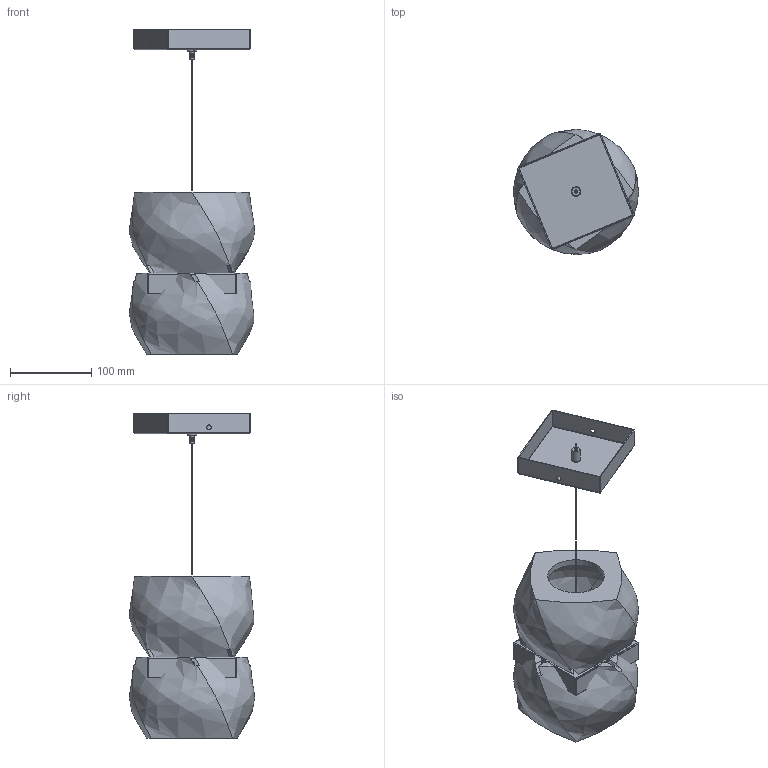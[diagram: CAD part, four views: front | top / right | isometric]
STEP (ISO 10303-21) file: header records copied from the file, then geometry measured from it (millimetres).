
FILE_DESCRIPTION( ( 'STEP AP203' ), '1' );
FILE_NAME( '//srvbf/BF Disegni/ARRIGHI FRANCESCA/AUREA/AUREA-T-SB sospensione TONDA Bianco.stp', '2020-10-16T06:31:27', ( ' ' ), ( ' ' ), 'XStep 1.0', ' ', ' ' );
FILE_SCHEMA( ( 'CONFIG_CONTROL_DESIGN) ( )' ) );
Length unit declared in the file: metre
Products named in the file (5): Assem1; 1; 2; 3; 4
Bounding box: 154.27 x 154.27 x 400 mm (x, y, z)
Volume: 851488.9 mm3; surface area: 308565.8 mm2
Topology: 8 solids, 8 shells, 318 faces, 840 edges, 544 vertices
Faces by surface type: cylinder 164, plane 122, extrusion 16, bspline 8, offset 8
Full cylindrical faces by diameter (mm): 1 x2, 2 x2, 4 x4, 5 x8, 6 x4, 10 x4, 12 x2, 70 x2
Entity records: 6564 total; most frequent: CARTESIAN_POINT 2418, DIRECTION 840, ORIENTED_EDGE 796, EDGE_CURVE 398, AXIS2_PLACEMENT_3D 338, VERTEX_POINT 264, EDGE_LOOP 194, CIRCLE 174
